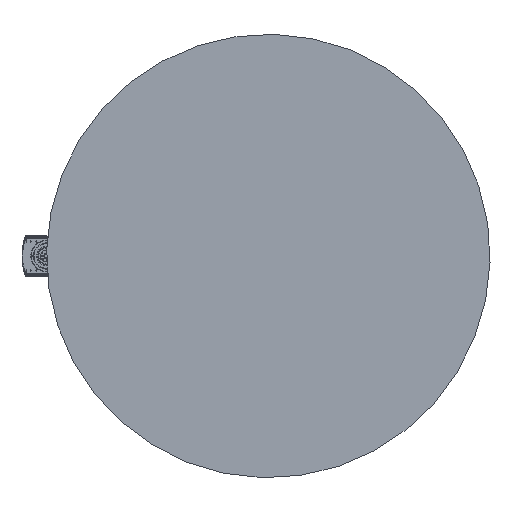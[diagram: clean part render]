
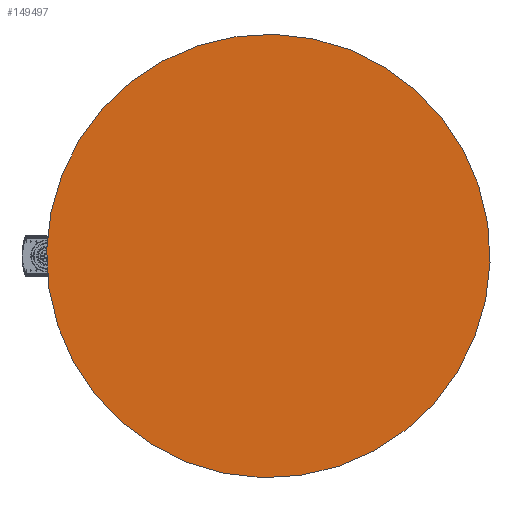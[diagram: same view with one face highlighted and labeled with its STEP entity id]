
A CAD part, front view. The second image highlights one B-rep face of the part: STEP entity #149497.
In plain terms, the highlighted planar face has unit normal (0, -1, 0).
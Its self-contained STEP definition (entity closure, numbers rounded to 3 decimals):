
#3952 = CARTESIAN_POINT ( 'NONE',  ( 0., 0., 650. ) ) ;
#40350 = CARTESIAN_POINT ( 'NONE',  ( 0., 0., 0. ) ) ;
#43270 = DIRECTION ( 'NONE',  ( 0., 0., 1. ) ) ;
#45886 = AXIS2_PLACEMENT_3D ( 'NONE', #40350, #55425, #81013 ) ;
#48815 = CARTESIAN_POINT ( 'NONE',  ( 0., 0., -650. ) ) ;
#55425 = DIRECTION ( 'NONE',  ( 0., 1., 0. ) ) ;
#63001 = EDGE_LOOP ( 'NONE', ( #186274, #185399 ) ) ;
#68976 = CIRCLE ( 'NONE', #156512, 650. ) ;
#70139 = VERTEX_POINT ( 'NONE', #48815 ) ;
#81013 = DIRECTION ( 'NONE',  ( 0., 0., 1. ) ) ;
#82117 = EDGE_CURVE ( 'NONE', #70139, #92482, #68976, .T. ) ;
#92249 = DIRECTION ( 'NONE',  ( 0., 1., 0. ) ) ;
#92482 = VERTEX_POINT ( 'NONE', #3952 ) ;
#93188 = CARTESIAN_POINT ( 'NONE',  ( 0., 0., 0. ) ) ;
#111432 = DIRECTION ( 'NONE',  ( 0., 1., 0. ) ) ;
#113282 = FACE_OUTER_BOUND ( 'NONE', #63001, .T. ) ;
#121443 = CIRCLE ( 'NONE', #45886, 650. ) ;
#125576 = CARTESIAN_POINT ( 'NONE',  ( 0., 0., 0. ) ) ;
#144820 = AXIS2_PLACEMENT_3D ( 'NONE', #125576, #111432, #43270 ) ;
#149497 = ADVANCED_FACE ( 'NONE', ( #113282 ), #154857, .F. ) ;
#154709 = EDGE_CURVE ( 'NONE', #92482, #70139, #121443, .T. ) ;
#154857 = PLANE ( 'NONE',  #144820 ) ;
#156512 = AXIS2_PLACEMENT_3D ( 'NONE', #93188, #92249, #177354 ) ;
#177354 = DIRECTION ( 'NONE',  ( 0., 0., 1. ) ) ;
#185399 = ORIENTED_EDGE ( 'NONE', *, *, #154709, .F. ) ;
#186274 = ORIENTED_EDGE ( 'NONE', *, *, #82117, .F. ) ;
